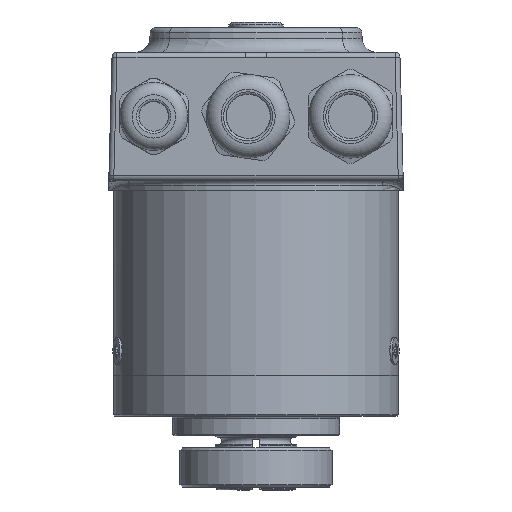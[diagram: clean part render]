
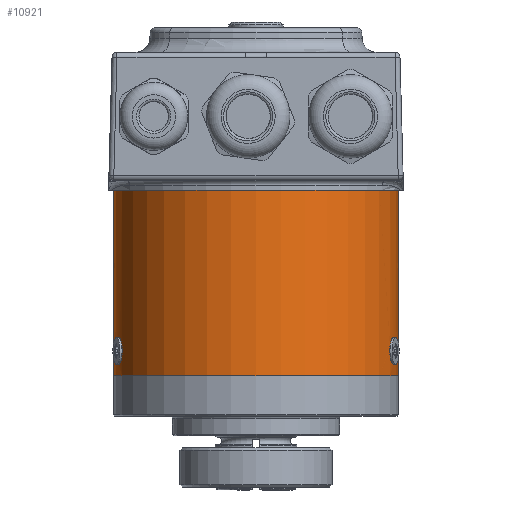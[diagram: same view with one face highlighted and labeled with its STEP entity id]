
A CAD part, front view. The second image highlights one B-rep face of the part: STEP entity #10921.
In plain terms, the highlighted cylindrical face has radius 29 mm (diameter 58 mm), a full revolution.
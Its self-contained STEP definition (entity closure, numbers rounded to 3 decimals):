
#308=B_SPLINE_CURVE_WITH_KNOTS('',3,(#16534,#16535,#16536,#16537,#16538),
 .UNSPECIFIED.,.F.,.F.,(4,1,4),(0.008,0.011,
0.013),.UNSPECIFIED.);
#309=B_SPLINE_CURVE_WITH_KNOTS('',3,(#16540,#16541,#16542,#16543,#16544),
 .UNSPECIFIED.,.F.,.F.,(4,1,4),(0.013,0.015,0.017),
 .UNSPECIFIED.);
#310=B_SPLINE_CURVE_WITH_KNOTS('',3,(#16546,#16547,#16548,#16549,#16550),
 .UNSPECIFIED.,.F.,.F.,(4,1,4),(0.017,0.019,0.022),
 .UNSPECIFIED.);
#311=B_SPLINE_CURVE_WITH_KNOTS('',3,(#16552,#16553,#16554,#16555,#16556),
 .UNSPECIFIED.,.F.,.F.,(4,1,4),(0.005,0.006,
0.008),.UNSPECIFIED.);
#312=B_SPLINE_CURVE_WITH_KNOTS('',3,(#16558,#16559,#16560,#16561,#16562),
 .UNSPECIFIED.,.F.,.F.,(4,1,4),(0.008,0.011,
0.013),.UNSPECIFIED.);
#313=B_SPLINE_CURVE_WITH_KNOTS('',3,(#16564,#16565,#16566,#16567,#16568),
 .UNSPECIFIED.,.F.,.F.,(4,1,4),(0.013,0.015,0.017),
 .UNSPECIFIED.);
#314=B_SPLINE_CURVE_WITH_KNOTS('',3,(#16570,#16571,#16572,#16573,#16574),
 .UNSPECIFIED.,.F.,.F.,(4,1,4),(0.017,0.019,0.022),
 .UNSPECIFIED.);
#315=B_SPLINE_CURVE_WITH_KNOTS('',3,(#16576,#16577,#16578,#16579,#16580),
 .UNSPECIFIED.,.F.,.F.,(4,1,4),(0.005,0.006,
0.008),.UNSPECIFIED.);
#316=B_SPLINE_CURVE_WITH_KNOTS('',3,(#16582,#16583,#16584,#16585,#16586),
 .UNSPECIFIED.,.F.,.F.,(4,1,4),(0.008,0.011,
0.013),.UNSPECIFIED.);
#317=B_SPLINE_CURVE_WITH_KNOTS('',3,(#16588,#16589,#16590,#16591,#16592),
 .UNSPECIFIED.,.F.,.F.,(4,1,4),(0.013,0.015,0.017),
 .UNSPECIFIED.);
#318=B_SPLINE_CURVE_WITH_KNOTS('',3,(#16594,#16595,#16596,#16597,#16598),
 .UNSPECIFIED.,.F.,.F.,(4,1,4),(0.017,0.019,0.022),
 .UNSPECIFIED.);
#319=B_SPLINE_CURVE_WITH_KNOTS('',3,(#16600,#16601,#16602,#16603,#16604),
 .UNSPECIFIED.,.F.,.F.,(4,1,4),(0.005,0.006,
0.008),.UNSPECIFIED.);
#1027=CIRCLE('',#11758,29.);
#1041=CIRCLE('',#11804,29.);
#2659=ORIENTED_EDGE('',*,*,#4023,.F.);
#2660=ORIENTED_EDGE('',*,*,#4022,.F.);
#2661=ORIENTED_EDGE('',*,*,#4021,.F.);
#2662=ORIENTED_EDGE('',*,*,#4020,.F.);
#2663=ORIENTED_EDGE('',*,*,#4019,.F.);
#2664=ORIENTED_EDGE('',*,*,#4018,.F.);
#2665=ORIENTED_EDGE('',*,*,#4017,.F.);
#2666=ORIENTED_EDGE('',*,*,#4016,.F.);
#2667=ORIENTED_EDGE('',*,*,#4015,.F.);
#2668=ORIENTED_EDGE('',*,*,#4014,.F.);
#2669=ORIENTED_EDGE('',*,*,#4013,.F.);
#2670=ORIENTED_EDGE('',*,*,#4012,.F.);
#2671=ORIENTED_EDGE('',*,*,#4063,.T.);
#2672=ORIENTED_EDGE('',*,*,#4011,.F.);
#4011=EDGE_CURVE('',#4864,#4864,#1027,.T.);
#4012=EDGE_CURVE('',#4832,#4831,#308,.T.);
#4013=EDGE_CURVE('',#4831,#4833,#309,.T.);
#4014=EDGE_CURVE('',#4833,#4834,#310,.T.);
#4015=EDGE_CURVE('',#4834,#4832,#311,.T.);
#4016=EDGE_CURVE('',#4837,#4838,#312,.T.);
#4017=EDGE_CURVE('',#4838,#4836,#313,.T.);
#4018=EDGE_CURVE('',#4836,#4835,#314,.T.);
#4019=EDGE_CURVE('',#4835,#4837,#315,.T.);
#4020=EDGE_CURVE('',#4840,#4839,#316,.T.);
#4021=EDGE_CURVE('',#4839,#4841,#317,.T.);
#4022=EDGE_CURVE('',#4841,#4842,#318,.T.);
#4023=EDGE_CURVE('',#4842,#4840,#319,.T.);
#4063=EDGE_CURVE('',#4890,#4890,#1041,.T.);
#4831=VERTEX_POINT('',#16406);
#4832=VERTEX_POINT('',#16407);
#4833=VERTEX_POINT('',#16409);
#4834=VERTEX_POINT('',#16411);
#4835=VERTEX_POINT('',#16415);
#4836=VERTEX_POINT('',#16416);
#4837=VERTEX_POINT('',#16418);
#4838=VERTEX_POINT('',#16420);
#4839=VERTEX_POINT('',#16424);
#4840=VERTEX_POINT('',#16425);
#4841=VERTEX_POINT('',#16427);
#4842=VERTEX_POINT('',#16429);
#4864=VERTEX_POINT('',#16532);
#4890=VERTEX_POINT('',#16815);
#6076=EDGE_LOOP('',(#2659,#2660,#2661,#2662));
#6077=EDGE_LOOP('',(#2663,#2664,#2665,#2666));
#6078=EDGE_LOOP('',(#2667,#2668,#2669,#2670));
#6079=EDGE_LOOP('',(#2671));
#6080=EDGE_LOOP('',(#2672));
#6722=FACE_BOUND('',#6076,.T.);
#6723=FACE_BOUND('',#6077,.T.);
#6724=FACE_BOUND('',#6078,.T.);
#6725=FACE_BOUND('',#6079,.T.);
#6726=FACE_BOUND('',#6080,.T.);
#6999=CYLINDRICAL_SURFACE('',#11803,29.);
#10921=ADVANCED_FACE('',(#6722,#6723,#6724,#6725,#6726),#6999,.T.);
#11758=AXIS2_PLACEMENT_3D('',#16531,#13631,#13632);
#11803=AXIS2_PLACEMENT_3D('',#16813,#13733,#13734);
#11804=AXIS2_PLACEMENT_3D('',#16814,#13735,#13736);
#13631=DIRECTION('',(0.,0.,-1.));
#13632=DIRECTION('',(0.,1.,0.));
#13733=DIRECTION('',(0.,0.,-1.));
#13734=DIRECTION('',(0.,1.,0.));
#13735=DIRECTION('',(0.,0.,-1.));
#13736=DIRECTION('',(0.,1.,0.));
#16406=CARTESIAN_POINT('',(1.702,28.95,2.89));
#16407=CARTESIAN_POINT('',(1.702,28.95,7.21));
#16409=CARTESIAN_POINT('',(-1.702,28.95,2.89));
#16411=CARTESIAN_POINT('',(-1.702,28.95,7.21));
#16415=CARTESIAN_POINT('',(28.404,-5.849,7.21));
#16416=CARTESIAN_POINT('',(28.404,-5.849,2.89));
#16418=CARTESIAN_POINT('',(27.523,-9.137,7.21));
#16420=CARTESIAN_POINT('',(27.523,-9.137,2.89));
#16424=CARTESIAN_POINT('',(-28.404,-5.849,2.89));
#16425=CARTESIAN_POINT('',(-28.404,-5.849,7.21));
#16427=CARTESIAN_POINT('',(-27.523,-9.137,2.89));
#16429=CARTESIAN_POINT('',(-27.523,-9.137,7.21));
#16531=CARTESIAN_POINT('',(0.,0.,0.));
#16532=CARTESIAN_POINT('',(0.,29.,0.));
#16534=CARTESIAN_POINT('',(1.702,28.95,7.21));
#16535=CARTESIAN_POINT('',(2.323,28.913,6.674));
#16536=CARTESIAN_POINT('',(3.032,28.839,5.052));
#16537=CARTESIAN_POINT('',(2.319,28.914,3.422));
#16538=CARTESIAN_POINT('',(1.702,28.95,2.89));
#16540=CARTESIAN_POINT('',(1.702,28.95,2.89));
#16541=CARTESIAN_POINT('',(1.234,28.978,2.486));
#16542=CARTESIAN_POINT('',(0.002,29.022,2.015));
#16543=CARTESIAN_POINT('',(-1.233,28.978,2.485));
#16544=CARTESIAN_POINT('',(-1.702,28.95,2.89));
#16546=CARTESIAN_POINT('',(-1.702,28.95,2.89));
#16547=CARTESIAN_POINT('',(-2.32,28.914,3.423));
#16548=CARTESIAN_POINT('',(-3.032,28.839,5.057));
#16549=CARTESIAN_POINT('',(-2.32,28.914,6.677));
#16550=CARTESIAN_POINT('',(-1.702,28.95,7.21));
#16552=CARTESIAN_POINT('',(-1.702,28.95,7.21));
#16553=CARTESIAN_POINT('',(-1.233,28.978,7.615));
#16554=CARTESIAN_POINT('',(-0.002,29.022,8.084));
#16555=CARTESIAN_POINT('',(1.231,28.978,7.617));
#16556=CARTESIAN_POINT('',(1.702,28.95,7.21));
#16558=CARTESIAN_POINT('',(27.523,-9.137,7.21));
#16559=CARTESIAN_POINT('',(27.327,-9.727,6.674));
#16560=CARTESIAN_POINT('',(27.072,-10.392,5.052));
#16561=CARTESIAN_POINT('',(27.328,-9.723,3.422));
#16562=CARTESIAN_POINT('',(27.523,-9.137,2.89));
#16564=CARTESIAN_POINT('',(27.523,-9.137,2.89));
#16565=CARTESIAN_POINT('',(27.671,-8.692,2.486));
#16566=CARTESIAN_POINT('',(28.033,-7.514,2.015));
#16567=CARTESIAN_POINT('',(28.309,-6.309,2.485));
#16568=CARTESIAN_POINT('',(28.404,-5.849,2.89));
#16570=CARTESIAN_POINT('',(28.404,-5.849,2.89));
#16571=CARTESIAN_POINT('',(28.529,-5.242,3.423));
#16572=CARTESIAN_POINT('',(28.641,-4.535,5.057));
#16573=CARTESIAN_POINT('',(28.529,-5.242,6.677));
#16574=CARTESIAN_POINT('',(28.404,-5.849,7.21));
#16576=CARTESIAN_POINT('',(28.404,-5.849,7.21));
#16577=CARTESIAN_POINT('',(28.309,-6.309,7.615));
#16578=CARTESIAN_POINT('',(28.034,-7.51,8.084));
#16579=CARTESIAN_POINT('',(27.672,-8.689,7.617));
#16580=CARTESIAN_POINT('',(27.523,-9.137,7.21));
#16582=CARTESIAN_POINT('',(-28.404,-5.849,7.21));
#16583=CARTESIAN_POINT('',(-28.53,-5.24,6.674));
#16584=CARTESIAN_POINT('',(-28.641,-4.536,5.052));
#16585=CARTESIAN_POINT('',(-28.529,-5.244,3.422));
#16586=CARTESIAN_POINT('',(-28.404,-5.849,2.89));
#16588=CARTESIAN_POINT('',(-28.404,-5.849,2.89));
#16589=CARTESIAN_POINT('',(-28.31,-6.308,2.486));
#16590=CARTESIAN_POINT('',(-28.034,-7.51,2.015));
#16591=CARTESIAN_POINT('',(-27.671,-8.691,2.485));
#16592=CARTESIAN_POINT('',(-27.523,-9.137,2.89));
#16594=CARTESIAN_POINT('',(-27.523,-9.137,2.89));
#16595=CARTESIAN_POINT('',(-27.328,-9.724,3.423));
#16596=CARTESIAN_POINT('',(-27.071,-10.393,5.057));
#16597=CARTESIAN_POINT('',(-27.328,-9.724,6.677));
#16598=CARTESIAN_POINT('',(-27.523,-9.137,7.21));
#16600=CARTESIAN_POINT('',(-27.523,-9.137,7.21));
#16601=CARTESIAN_POINT('',(-27.671,-8.691,7.615));
#16602=CARTESIAN_POINT('',(-28.033,-7.513,8.084));
#16603=CARTESIAN_POINT('',(-28.309,-6.311,7.617));
#16604=CARTESIAN_POINT('',(-28.404,-5.849,7.21));
#16813=CARTESIAN_POINT('',(0.,0.,
13.5));
#16814=CARTESIAN_POINT('',(0.,0.,
37.75));
#16815=CARTESIAN_POINT('',(0.,29.,37.75));
